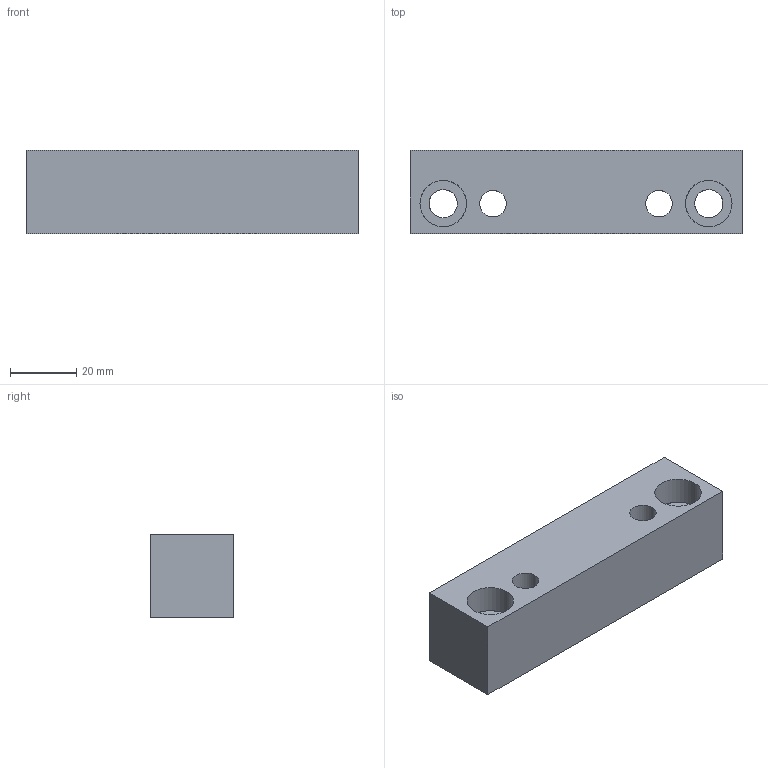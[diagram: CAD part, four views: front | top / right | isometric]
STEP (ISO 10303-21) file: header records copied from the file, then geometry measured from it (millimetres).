
FILE_DESCRIPTION(('CATIA V5 STEP Exchange'),'2;1');
FILE_NAME('C:\Users\Utente\Desktop\3D files G405\G40525100.stp','2020-04-22T09:20:21+00:00',('none'),('none'),'CATIA Version 5 Release 20 GA (IN-10)','CATIA V5 STEP AP203','none');
FILE_SCHEMA(('CONFIG_CONTROL_DESIGN'));
Length unit declared in the file: millimetre
Products named in the file (1): G40525100
Bounding box: 100 x 25 x 25 mm (x, y, z)
Surface area: 16996.2 mm2 (no closed solid volume)
Topology: 0 solids, 386 shells, 386 faces, 1656 edges, 1480 vertices
Faces by surface type: revolution 212, cylinder 128, plane 46
Entity records: 18260 total; most frequent: CARTESIAN_POINT 5993, DIRECTION 1934, ORIENTED_EDGE 1480, EDGE_CURVE 1480, VERTEX_POINT 1480, AXIS2_PLACEMENT_3D 845, VECTOR 704, LINE 704
